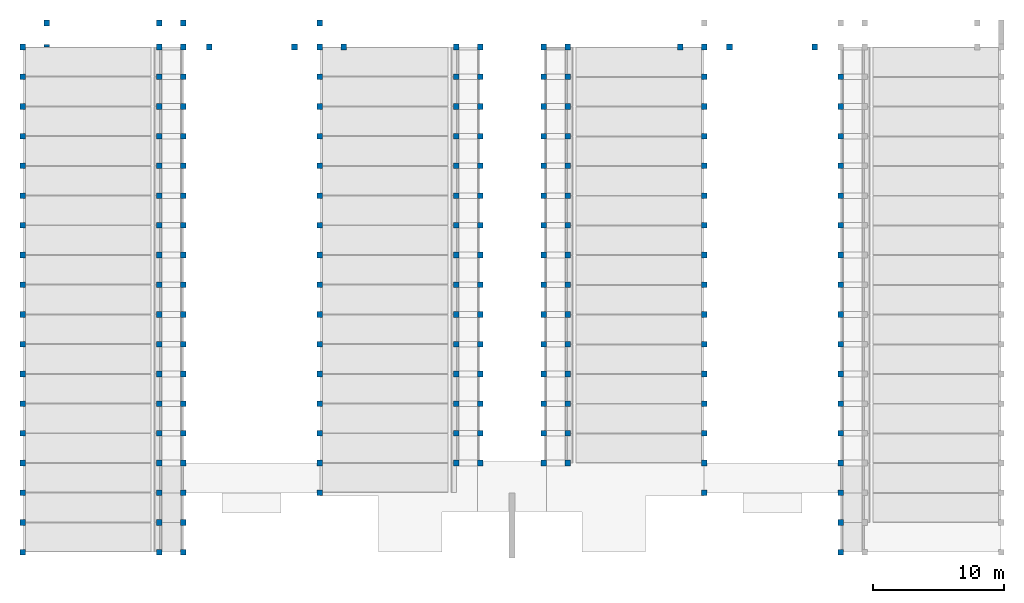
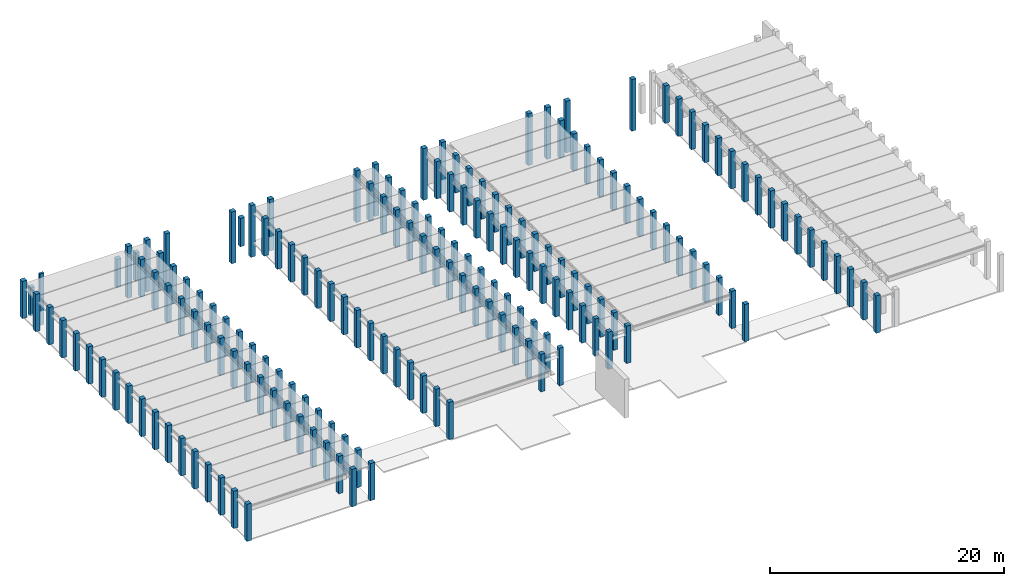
# One storey, part 1 of 21: 174 columns.
"""IFC2X3 building model written with IfcOpenShell, lengths in millimetres."""

import ifcopenshell
import ifcopenshell.guid

model = None  # the IFC model being written
_history = None  # IfcOwnerHistory: only IFC2X3 demands one
_inside = {}  # id of a spatial element -> (the spatial element, [elements in it])
_under = {}  # id of a project, library or spatial element -> (it, [spatial elements below it])
_declared = {}  # id of a project -> (the project, [libraries it declares])
_typed = {}  # id of a type object -> (the type object, [elements of that type])
_made_of = {}  # id of a material, layer set ... -> (it, [elements and type objects made of it])


def new_model(schema):
    """Start an empty IFC model of exactly this schema.

    Asked for "IFC4X3", IfcOpenShell would pick the latest addendum, in which some entities
    have other attributes; the version numbers below select the first issue.
    IFC2X3 requires an IfcOwnerHistory on every rooted entity: one is made here for all.
    """
    global model, _history
    if schema == "IFC4X3":
        model = ifcopenshell.file(schema_version=(4, 3, 0, 0))
    else:
        model = ifcopenshell.file(schema=schema)
    _inside.clear()
    _under.clear()
    _declared.clear()
    _typed.clear()
    _made_of.clear()
    _history = None
    if model.schema == "IFC2X3":
        org = make("IfcOrganization", Name="unknown")
        user = make(
            "IfcPersonAndOrganization",
            ThePerson=make("IfcPerson", FamilyName="unknown"),
            TheOrganization=org,
        )
        app = make(
            "IfcApplication",
            ApplicationDeveloper=org,
            Version="unknown",
            ApplicationFullName="unknown",
            ApplicationIdentifier="unknown",
        )
        _history = make(
            "IfcOwnerHistory",
            OwningUser=user,
            OwningApplication=app,
            ChangeAction="ADDED",
            CreationDate=0,
        )
    return model


def make(cls, **values):
    """One entity of the class cls with the attributes given. An attribute that is None is left unset."""
    return model.create_entity(
        cls, **{name: value for name, value in values.items() if value is not None}
    )


def entity(cls, *values):
    """Any entity or typed value of the class cls, its attributes in the order of the schema. None: left unset."""
    e = model.create_entity(cls)
    for i, value in enumerate(values):
        if value is not None:
            e[i] = value
    return e


def rooted(cls, **values):
    """An entity with a GlobalId (a new one), such as an element, a storey or a relation."""
    return make(cls, GlobalId=ifcopenshell.guid.new(), OwnerHistory=_history, **values)


def si_unit(unit_type, name, prefix=None):
    """IfcSIUnit, for example si_unit("LENGTHUNIT", "METRE", prefix="MILLI")."""
    return make("IfcSIUnit", UnitType=unit_type, Prefix=prefix, Name=name)


def converted_unit(unit_type, name, factor, base, dimensions=None, offset=None):
    """IfcConversionBasedUnit, such as the inch: factor (a typed value) times the base unit."""
    return make(
        "IfcConversionBasedUnit"
        if offset is None
        else "IfcConversionBasedUnitWithOffset",
        ConversionOffset=offset,
        Dimensions=None
        if dimensions is None
        else entity("IfcDimensionalExponents", *dimensions),
        UnitType=unit_type,
        Name=name,
        ConversionFactor=make(
            "IfcMeasureWithUnit", ValueComponent=factor, UnitComponent=base
        ),
    )


def derived_unit(unit_type, elements):
    """IfcDerivedUnit: a product of units, each with its exponent."""
    return make(
        "IfcDerivedUnit",
        Elements=[
            make("IfcDerivedUnitElement", Unit=unit, Exponent=power)
            for unit, power in elements
        ],
        UnitType=unit_type,
    )


def assignment(units):
    """IfcUnitAssignment: the units of a project."""
    return None if units is None else make("IfcUnitAssignment", Units=units)


def point(xyz):
    """IfcCartesianPoint."""
    return None if xyz is None else make("IfcCartesianPoint", Coordinates=xyz)


def direction(xyz):
    """IfcDirection."""
    return None if xyz is None else make("IfcDirection", DirectionRatios=xyz)


def frame(location, z_axis=None, x_axis=None):
    """IfcAxis2Placement3D, a coordinate frame: its origin and axes. An axis left out is left unset."""
    return make(
        "IfcAxis2Placement3D",
        Location=point(location),
        Axis=direction(z_axis),
        RefDirection=direction(x_axis),
    )


def frame_2d(location, x_axis=None):
    """IfcAxis2Placement2D, a coordinate frame in the plane: its origin and x axis."""
    return make(
        "IfcAxis2Placement2D", Location=point(location), RefDirection=direction(x_axis)
    )


def origin():
    """The frame at (0, 0, 0) with its axes left unset."""
    return frame((0.0, 0.0, 0.0))


def origin_2d_with_axis():
    """The frame at (0, 0) in the plane with the x axis (1, 0) written out."""
    return frame_2d((0.0, 0.0), x_axis=(1.0, 0.0))


def place(relative_to, where):
    """IfcLocalPlacement: puts the frame where relative to a parent placement (None: the world)."""
    return make(
        "IfcLocalPlacement", PlacementRelTo=relative_to, RelativePlacement=where
    )


def context(
    kind, dimensions, precision=None, world=None, true_north=None, identifier=None
):
    """IfcGeometricRepresentationContext, for example the 3D "Model" context."""
    return make(
        "IfcGeometricRepresentationContext",
        ContextIdentifier=identifier,
        ContextType=kind,
        CoordinateSpaceDimension=dimensions,
        Precision=precision,
        WorldCoordinateSystem=world,
        TrueNorth=true_north,
    )


def subcontext(parent, identifier, kind, view, scale=None):
    """IfcGeometricRepresentationSubContext, for example "Body" below "Model"."""
    return make(
        "IfcGeometricRepresentationSubContext",
        ContextIdentifier=identifier,
        ContextType=kind,
        ParentContext=parent,
        TargetScale=scale,
        TargetView=view,
    )


def project(units=None, contexts=None):
    """IfcProject with its units and contexts."""
    return rooted(
        "IfcProject",
        Name="project",
        RepresentationContexts=contexts,
        UnitsInContext=assignment(units),
    )


def spatial(cls, under=None, at=None, **own):
    """A site, building, storey or space (cls), placed at a placement, below another one or the project."""
    s = rooted(cls, ObjectPlacement=at, **own)
    if under is not None:
        _under.setdefault(under.id(), (under, []))[1].append(s)
    return s


def polyline(points):
    """IfcPolyline through the points."""
    return make("IfcPolyline", Points=[point(p) for p in points])


def profile(cls, at=None, kind="AREA", **sizes):
    """A parametric profile (cls). Its sizes go by their IFC names, for example OverallWidth=200.0."""
    return make(cls, ProfileType=kind, Position=at, **sizes)


def rectangle(**sizes):
    """IfcRectangleProfileDef."""
    return profile("IfcRectangleProfileDef", **sizes)


def outline(outer, holes=None, kind="AREA"):
    """IfcArbitraryClosedProfileDef: a profile drawn as a closed curve; with holes, ...WithVoids."""
    if holes is None:
        return make("IfcArbitraryClosedProfileDef", ProfileType=kind, OuterCurve=outer)
    return make(
        "IfcArbitraryProfileDefWithVoids",
        ProfileType=kind,
        OuterCurve=outer,
        InnerCurves=holes,
    )


def extrude(swept, where, along, depth):
    """IfcExtrudedAreaSolid: the profile swept, set in the frame where, extruded along a direction by depth."""
    return make(
        "IfcExtrudedAreaSolid",
        SweptArea=swept,
        Position=where,
        ExtrudedDirection=direction(along),
        Depth=depth,
    )


def shape(context_of_items, identifier, shape_type, items):
    """IfcShapeRepresentation: the items that make up one representation, for example the "Body"."""
    return make(
        "IfcShapeRepresentation",
        ContextOfItems=context_of_items,
        RepresentationIdentifier=identifier,
        RepresentationType=shape_type,
        Items=items,
    )


def source(mapping_origin, context_of_items, identifier, shape_type, items):
    """IfcRepresentationMap: a shape defined once, which mapped items show again and again."""
    return make(
        "IfcRepresentationMap",
        MappingOrigin=mapping_origin,
        MappedRepresentation=shape(context_of_items, identifier, shape_type, items),
    )


def transform(
    local_origin,
    x_axis=None,
    y_axis=None,
    z_axis=None,
    scale=None,
    scale2=None,
    scale3=None,
    uniform=True,
):
    """IfcCartesianTransformationOperator3D, or its non-uniform kind. x_axis, y_axis, z_axis: its Axis1, 2, 3."""
    if uniform:
        return make(
            "IfcCartesianTransformationOperator3D",
            Axis1=direction(x_axis),
            Axis2=direction(y_axis),
            LocalOrigin=point(local_origin),
            Scale=scale,
            Axis3=direction(z_axis),
        )
    return make(
        "IfcCartesianTransformationOperator3DnonUniform",
        Axis1=direction(x_axis),
        Axis2=direction(y_axis),
        LocalOrigin=point(local_origin),
        Scale=scale,
        Axis3=direction(z_axis),
        Scale2=scale2,
        Scale3=scale3,
    )


def mapped(mapping_source, mapping_target):
    """IfcMappedItem: shows the shape of a source again, moved by a transform."""
    return make(
        "IfcMappedItem", MappingSource=mapping_source, MappingTarget=mapping_target
    )


def material(Name=None, Category=None):
    """IfcMaterial."""
    return make("IfcMaterial", Name=Name, Category=Category)


def made_of(thing, what):
    """Note that an element or type object is made of a material, layer set ...; save() writes the relation."""
    if what is not None:
        _made_of.setdefault(what.id(), (what, []))[1].append(thing)
    return thing


def type_object(cls, material=None, **own):
    """A type object (cls), such as IfcWallType, which elements share."""
    return made_of(rooted(cls, **own), material)


def type_shapes(of_type, sources):
    """Give a type object the sources (RepresentationMaps) that its elements show as mapped items."""
    of_type.RepresentationMaps = sources


def element(
    cls,
    number,
    at=None,
    inside=None,
    cuts=None,
    type_object=None,
    material=None,
    context=None,
    identifier="Body",
    shape_type=None,
    held_by="IfcProductDefinitionShape",
    body=None,
    shapes=None,
    **own,
):
    """One element of the class cls, such as IfcWall. Its Tag is "e" and its number.

    at: its placement. inside: the storey or other place that contains it. cuts: it is an
    opening in that element (IfcRelVoidsElement). A single representation is given by context,
    identifier, shape_type and body (its items); several are given by shapes. held_by: the class
    of the entity that holds the representations. save() writes the other relations.
    """
    e = rooted(cls, Tag="e%d" % number, ObjectPlacement=at, **own)
    if body is not None:
        shapes = [shape(context, identifier, shape_type, body)]
    if shapes is not None:
        e.Representation = make(held_by, Representations=shapes)
    if inside is not None:
        _inside.setdefault(inside.id(), (inside, []))[1].append(e)
    if cuts is not None:
        rooted(
            "IfcRelVoidsElement", RelatingBuildingElement=cuts, RelatedOpeningElement=e
        )
    if type_object is not None:
        _typed.setdefault(type_object.id(), (type_object, []))[1].append(e)
    return made_of(e, material)


def aggregate(whole, parts):
    """IfcRelAggregates: a whole, such as a stair, and the parts it consists of."""
    return rooted("IfcRelAggregates", RelatingObject=whole, RelatedObjects=parts)


def save(model, path):
    """Write the relations noted so far, then the file.

    IfcRelAggregates (storeys below a building ...), IfcRelContainedInSpatialStructure (elements
    in a storey), IfcRelDefinesByType, IfcRelAssociatesMaterial and IfcRelDeclares: one each for
    every whole, place, type object, material and project.
    """
    for whole, parts in _under.values():
        aggregate(whole, parts)
    for where, things in _inside.values():
        rooted(
            "IfcRelContainedInSpatialStructure",
            RelatedElements=things,
            RelatingStructure=where,
        )
    for kind, things in _typed.values():
        rooted("IfcRelDefinesByType", RelatedObjects=things, RelatingType=kind)
    for what, things in _made_of.values():
        rooted("IfcRelAssociatesMaterial", RelatedObjects=things, RelatingMaterial=what)
    for by, libraries in _declared.values():
        rooted("IfcRelDeclares", RelatingContext=by, RelatedDefinitions=libraries)
    model.write(path)


model = new_model("IFC2X3")

# Units and contexts
model_context = context("Model", 3, precision=0.01, world=origin(), true_north=direction((6.12303176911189e-17, 1.0)))
body_context = subcontext(model_context, "Body", "Model", "MODEL_VIEW")
ifc_project = project(units=[si_unit("LENGTHUNIT", "METRE", prefix="MILLI"), si_unit("AREAUNIT", "SQUARE_METRE"), si_unit("VOLUMEUNIT", "CUBIC_METRE"), converted_unit("PLANEANGLEUNIT", "DEGREE", entity("IfcRatioMeasure", 0.0174532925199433), si_unit("PLANEANGLEUNIT", "RADIAN"), dimensions=[0, 0, 0, 0, 0, 0, 0]), si_unit("MASSUNIT", "GRAM", prefix="KILO"), derived_unit("MASSDENSITYUNIT", [(si_unit("MASSUNIT", "GRAM", prefix="KILO"), 1), (si_unit("LENGTHUNIT", "METRE"), -3)]), derived_unit("MOMENTOFINERTIAUNIT", [(si_unit("LENGTHUNIT", "METRE"), 4)]), si_unit("TIMEUNIT", "SECOND"), si_unit("FREQUENCYUNIT", "HERTZ"), si_unit("THERMODYNAMICTEMPERATUREUNIT", "DEGREE_CELSIUS"), derived_unit("THERMALTRANSMITTANCEUNIT", [(si_unit("MASSUNIT", "GRAM", prefix="KILO"), 1), (si_unit("THERMODYNAMICTEMPERATUREUNIT", "KELVIN"), -1), (si_unit("TIMEUNIT", "SECOND"), -3)]), derived_unit("VOLUMETRICFLOWRATEUNIT", [(si_unit("LENGTHUNIT", "METRE"), 3), (si_unit("TIMEUNIT", "SECOND"), -1)]), si_unit("ELECTRICCURRENTUNIT", "AMPERE"), si_unit("ELECTRICVOLTAGEUNIT", "VOLT"), si_unit("POWERUNIT", "WATT"), si_unit("FORCEUNIT", "NEWTON", prefix="KILO"), si_unit("ILLUMINANCEUNIT", "LUX"), si_unit("LUMINOUSFLUXUNIT", "LUMEN"), si_unit("LUMINOUSINTENSITYUNIT", "CANDELA"), derived_unit("USERDEFINED", [(si_unit("MASSUNIT", "GRAM", prefix="KILO"), -1), (si_unit("LENGTHUNIT", "METRE"), -2), (si_unit("TIMEUNIT", "SECOND"), 3), (si_unit("LUMINOUSFLUXUNIT", "LUMEN"), 1)]), derived_unit("LINEARVELOCITYUNIT", [(si_unit("LENGTHUNIT", "METRE"), 1), (si_unit("TIMEUNIT", "SECOND"), -1)]), si_unit("PRESSUREUNIT", "PASCAL"), derived_unit("USERDEFINED", [(si_unit("LENGTHUNIT", "METRE"), -2), (si_unit("MASSUNIT", "GRAM", prefix="KILO"), 1), (si_unit("TIMEUNIT", "SECOND"), -2)]), derived_unit("LINEARFORCEUNIT", [(si_unit("MASSUNIT", "GRAM", prefix="KILO"), 1), (si_unit("LENGTHUNIT", "METRE"), 1), (si_unit("TIMEUNIT", "SECOND"), -2), (si_unit("LENGTHUNIT", "METRE"), -1)]), derived_unit("PLANARFORCEUNIT", [(si_unit("MASSUNIT", "GRAM", prefix="KILO"), 1), (si_unit("LENGTHUNIT", "METRE"), 1), (si_unit("TIMEUNIT", "SECOND"), -2), (si_unit("LENGTHUNIT", "METRE"), -2)])], contexts=[model_context])

# Site, building, storey
site_placement = place(None, frame((10627.5135316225, 21939.0796949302, 0.0)))
site = spatial("IfcSite", under=ifc_project, at=site_placement, Name="Default", CompositionType="ELEMENT")
building_placement = place(site_placement, origin())
building = spatial("IfcBuilding", under=site, at=building_placement, CompositionType="ELEMENT")
storey_placement = place(building_placement, frame((0.0, 0.0, 7320.0)))
storey = spatial("IfcBuildingStorey", under=building, at=storey_placement, Name="R+2", CompositionType="ELEMENT", Elevation=7320.0)

# Columns
ifc_material = material(Name="Concrete, Precast Smooth, Light Grey")
column_type_1 = type_object("IfcColumnType", Name="M_Precast-Square Column:430x430", PredefinedType="COLUMN", material=ifc_material)
shared_shape_1 = source(origin(), body_context, "Body", "SweptSolid", [
    extrude(rectangle(XDim=430.0, YDim=430.0, at=origin_2d_with_axis()), frame((0.0, 0.0, 5820.0), z_axis=(0.0, 0.0, 1.0), x_axis=(0.0, -1.0, 0.0)), (0.0, 0.0, 1.0), 5410.0),
])
type_shapes(column_type_1, [shared_shape_1])
column_1_placement = place(storey_placement, frame((-247.513531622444, 16480.9203050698, -7320.0)))
element("IfcColumn", 1, at=column_1_placement, inside=storey, type_object=column_type_1, material=ifc_material, Name="M_Precast-Square Column:430x430", ObjectType="M_Precast-Square Column:430x430", context=body_context, shape_type="MappedRepresentation", body=[
    mapped(shared_shape_1, transform((0.0, 0.0, 0.0), scale=1.0)),
])
for number, where, z_axis, x_axis, name in (
    (2, (1582.48646837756, 16480.9203050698, -7320.0), (0.0, 0.0, 1.0), (-1.0, 0.0, 0.0), "M_Precast-Square Column:430x430"),
    (3, (3545.48646837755, 16480.9203050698, -7320.0), (0.0, 0.0, 1.0), (-1.0, 0.0, 0.0), "M_Precast-Square Column:430x430"),
    (4, (11962.4864683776, 16480.9203050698, -7320.0), (0.0, 0.0, 1.0), (-1.0, 0.0, 0.0), "M_Precast-Square Column:430x430"),
    (5, (22342.4864683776, 16480.9203050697, -7320.0), (0.0, 0.0, 1.0), (-1.0, 0.0, 0.0), "M_Precast-Square Column:430x430"),
    (6, (24172.4864683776, 16480.9203050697, -7320.0), (0.0, 0.0, 1.0), (-1.0, 0.0, 0.0), "M_Precast-Square Column:430x430"),
    (7, (43117.3311933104, 16480.9203050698, -7320.0), (0.0, 0.0, 1.0), (-1.0, 0.0, 0.0), "M_Precast-Square Column:430x430"),
    (8, (39362.4864683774, 16480.9203050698, -7320.0), (0.0, 0.0, 1.0), (-1.0, 0.0, 0.0), "M_Precast-Square Column:430x430"),
):
    element("IfcColumn", number, at=place(storey_placement, frame(where, z_axis=z_axis, x_axis=x_axis)), inside=storey, type_object=column_type_1, material=ifc_material, Name=name, ObjectType="M_Precast-Square Column:430x430", context=body_context, shape_type="MappedRepresentation", body=[
        mapped(shared_shape_1, transform((0.0, 0.0, 0.0), scale=1.0)),
    ])
column_type_2 = type_object("IfcColumnType", Name="M_Precast-Square Column:430x430", PredefinedType="COLUMN", material=ifc_material)
shared_shape_2 = source(origin(), body_context, "Body", "SweptSolid", [
    extrude(rectangle(XDim=430.0, YDim=430.0, at=origin_2d_with_axis()), frame((0.0, 0.0, 5820.0), z_axis=(0.0, 0.0, 1.0), x_axis=(0.0, -1.0, 0.0)), (0.0, 0.0, 1.0), 2970.0),
])
type_shapes(column_type_2, [shared_shape_2])
for number, where, z_axis, x_axis, name in (
    (9, (-247.513531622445, 18310.9203050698, -7320.0), (0.0, 0.0, 1.0), (-1.0, 0.0, 0.0), "M_Precast-Square Column:430x430"),
    (10, (1582.48646837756, 18310.9203050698, -7320.0), (0.0, 0.0, 1.0), (-1.0, 0.0, 0.0), "M_Precast-Square Column:430x430"),
    (11, (11962.4864683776, 18310.9203050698, -7320.0), (0.0, 0.0, 1.0), (-1.0, 0.0, 0.0), "M_Precast-Square Column:430x430"),
    (12, (-8797.51353162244, 18310.9203050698, -7320.0), (0.0, 0.0, 1.0), (-1.0, 0.0, 0.0), "M_Precast-Square Column:430x430"),
):
    element("IfcColumn", number, at=place(storey_placement, frame(where, z_axis=z_axis, x_axis=x_axis)), inside=storey, type_object=column_type_2, material=ifc_material, Name=name, ObjectType="M_Precast-Square Column:430x430", context=body_context, shape_type="MappedRepresentation", body=[
        mapped(shared_shape_2, transform((0.0, 0.0, 0.0), scale=1.0)),
    ])
column_type_3 = type_object("IfcColumnType", Name="M_Precast-Rectangular Column:430X200", PredefinedType="COLUMN", material=ifc_material)
shared_shape_3 = source(origin(), body_context, "Body", "SweptSolid", [
    extrude(outline(polyline([(-75.0, -215.0), (75.0, -215.0), (100.0, -190.0), (100.0, 190.0), (75.0, 215.0), (-75.0, 215.0), (-100.0, 190.0), (-100.0, -190.0), (-75.0, -215.0)])), frame((0.0, 0.0, 5820.0), z_axis=(0.0, 0.0, 1.0), x_axis=(0.0, -1.0, 0.0)), (0.0, 0.0, 1.0), 5410.0),
])
type_shapes(column_type_3, [shared_shape_3])
column_2_placement = place(storey_placement, frame((-8797.51353162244, 16585.9203050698, -7320.0), z_axis=(0.0, 0.0, 1.0), x_axis=(-1.0, 0.0, 0.0)))
element("IfcColumn", 13, at=column_2_placement, inside=storey, type_object=column_type_3, material=ifc_material, Name="M_Precast-Rectangular Column:430X200", ObjectType="M_Precast-Rectangular Column:430X200", context=body_context, shape_type="MappedRepresentation", body=[
    mapped(shared_shape_3, transform((0.0, 0.0, 0.0), scale=1.0)),
])
column_type_4 = type_object("IfcColumnType", Name="M_Precast-Square Column:430x430", PredefinedType="COLUMN", material=ifc_material)
shared_shape_4 = source(origin(), body_context, "Body", "SweptSolid", [
    extrude(rectangle(XDim=430.0, YDim=430.0, at=origin_2d_with_axis()), frame((0.0, 0.0, 5820.0), z_axis=(0.0, 0.0, 1.0), x_axis=(0.0, -1.0, 0.0)), (0.0, 0.0, 1.0), 5410.0),
])
type_shapes(column_type_4, [shared_shape_4])
for number, where, name in (
    (14, (10037.6417434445, 16480.9203050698, -7320.0), "M_Precast-Square Column:430x430"),
    (15, (13792.4864683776, 16480.9203050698, -7320.0), "M_Precast-Square Column:430x430"),
    (16, (49609.4864683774, 16480.9203050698, -7320.0), "M_Precast-Square Column:430x430"),
    (17, (41192.4864683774, 16480.9203050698, -7320.0), "M_Precast-Square Column:430x430"),
    (18, (30812.4864683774, 16480.9203050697, -7320.0), "M_Precast-Square Column:430x430"),
    (19, (28982.4864683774, 16480.9203050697, -7320.0), "M_Precast-Square Column:430x430"),
):
    element("IfcColumn", number, at=place(storey_placement, frame(where)), inside=storey, type_object=column_type_4, material=ifc_material, Name=name, ObjectType="M_Precast-Square Column:430x430", context=body_context, shape_type="MappedRepresentation", body=[
        mapped(shared_shape_4, transform((0.0, 0.0, 0.0), scale=1.0)),
    ])
column_type_5 = type_object("IfcColumnType", Name="M_Precast-Square Column:430x430 Main floor", PredefinedType="COLUMN", material=ifc_material)
shared_shape_5 = source(origin(), body_context, "Body", "SweptSolid", [
    extrude(rectangle(XDim=430.0, YDim=430.0, at=origin_2d_with_axis()), frame((0.0, 0.0, 7320.0), z_axis=(0.0, 0.0, 1.0), x_axis=(0.0, -1.0, 0.0)), (0.0, 0.0, 1.0), 3910.0),
])
type_shapes(column_type_5, [shared_shape_5])
for number, where, z_axis, x_axis, name in (
    (20, (-10627.5135316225, 14220.9203050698, -7320.0), (0.0, 0.0, 1.0), (-1.0, 0.0, 0.0), "M_Precast-Square Column:430x430 Main floor"),
    (21, (-10627.5135316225, 11960.9203050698, -7320.0), (0.0, 0.0, 1.0), (-1.0, 0.0, 0.0), "M_Precast-Square Column:430x430 Main floor"),
    (22, (-247.51353162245, 14220.9203050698, -7320.0), (0.0, 0.0, 1.0), (-1.0, 0.0, 0.0), "M_Precast-Square Column:430x430 Main floor"),
    (23, (-247.513531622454, 11960.9203050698, -7320.0), (0.0, 0.0, 1.0), (-1.0, 0.0, 0.0), "M_Precast-Square Column:430x430 Main floor"),
    (24, (1582.48646837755, 14220.9203050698, -7320.0), (0.0, 0.0, 1.0), (-1.0, 0.0, 0.0), "M_Precast-Square Column:430x430 Main floor"),
    (25, (1582.48646837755, 11960.9203050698, -7320.0), (0.0, 0.0, 1.0), (-1.0, 0.0, 0.0), "M_Precast-Square Column:430x430 Main floor"),
    (26, (11962.4864683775, 14220.9203050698, -7320.0), (0.0, 0.0, 1.0), (-1.0, 0.0, 0.0), "M_Precast-Square Column:430x430 Main floor"),
    (27, (11962.4864683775, 11960.9203050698, -7320.0), (0.0, 0.0, 1.0), (-1.0, 0.0, 0.0), "M_Precast-Square Column:430x430 Main floor"),
    (28, (22342.4864683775, 14220.9203050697, -7320.0), (0.0, 0.0, 1.0), (-1.0, 0.0, 0.0), "M_Precast-Square Column:430x430 Main floor"),
    (29, (22342.4864683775, 11960.9203050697, -7320.0), (0.0, 0.0, 1.0), (-1.0, 0.0, 0.0), "M_Precast-Square Column:430x430 Main floor"),
    (30, (24172.4864683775, 14220.9203050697, -7320.0), (0.0, 0.0, 1.0), (-1.0, 0.0, 0.0), "M_Precast-Square Column:430x430 Main floor"),
    (31, (24172.4864683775, 11960.9203050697, -7320.0), (0.0, 0.0, 1.0), (-1.0, 0.0, 0.0), "M_Precast-Square Column:430x430 Main floor"),
    (32, (-247.513531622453, 9700.92030506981, -7320.0), (0.0, 0.0, 1.0), (-1.0, 0.0, 0.0), "M_Precast-Square Column:430x430 Main floor"),
    (33, (1582.48646837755, 9700.9203050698, -7320.0), (0.0, 0.0, 1.0), (-1.0, 0.0, 0.0), "M_Precast-Square Column:430x430 Main floor"),
    (34, (-10627.5135316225, 9700.92030506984, -7320.0), (0.0, 0.0, 1.0), (-1.0, 0.0, 0.0), "M_Precast-Square Column:430x430 Main floor"),
    (35, (11962.4864683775, 9700.92030506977, -7320.0), (0.0, 0.0, 1.0), (-1.0, 0.0, 0.0), "M_Precast-Square Column:430x430 Main floor"),
    (36, (22342.4864683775, 9700.92030506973, -7320.0), (0.0, 0.0, 1.0), (-1.0, 0.0, 0.0), "M_Precast-Square Column:430x430 Main floor"),
    (37, (24172.4864683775, 9700.92030506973, -7320.0), (0.0, 0.0, 1.0), (-1.0, 0.0, 0.0), "M_Precast-Square Column:430x430 Main floor"),
    (38, (-247.513531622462, 7440.92030506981, -7320.0), (0.0, 0.0, 1.0), (-1.0, 0.0, 0.0), "M_Precast-Square Column:430x430 Main floor"),
    (39, (1582.48646837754, 7440.9203050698, -7320.0), (0.0, 0.0, 1.0), (-1.0, 0.0, 0.0), "M_Precast-Square Column:430x430 Main floor"),
    (40, (-10627.5135316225, 7440.92030506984, -7320.0), (0.0, 0.0, 1.0), (-1.0, 0.0, 0.0), "M_Precast-Square Column:430x430 Main floor"),
    (41, (11962.4864683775, 7440.92030506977, -7320.0), (0.0, 0.0, 1.0), (-1.0, 0.0, 0.0), "M_Precast-Square Column:430x430 Main floor"),
    (42, (22342.4864683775, 7440.92030506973, -7320.0), (0.0, 0.0, 1.0), (-1.0, 0.0, 0.0), "M_Precast-Square Column:430x430 Main floor"),
    (43, (24172.4864683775, 7440.92030506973, -7320.0), (0.0, 0.0, 1.0), (-1.0, 0.0, 0.0), "M_Precast-Square Column:430x430 Main floor"),
    (44, (-247.513531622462, 5180.92030506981, -7320.0), (0.0, 0.0, 1.0), (-1.0, 0.0, 0.0), "M_Precast-Square Column:430x430 Main floor"),
    (45, (1582.48646837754, 5180.9203050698, -7320.0), (0.0, 0.0, 1.0), (-1.0, 0.0, 0.0), "M_Precast-Square Column:430x430 Main floor"),
    (46, (-10627.5135316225, 5180.92030506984, -7320.0), (0.0, 0.0, 1.0), (-1.0, 0.0, 0.0), "M_Precast-Square Column:430x430 Main floor"),
    (47, (11962.4864683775, 5180.92030506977, -7320.0), (0.0, 0.0, 1.0), (-1.0, 0.0, 0.0), "M_Precast-Square Column:430x430 Main floor"),
    (48, (22342.4864683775, 5180.92030506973, -7320.0), (0.0, 0.0, 1.0), (-1.0, 0.0, 0.0), "M_Precast-Square Column:430x430 Main floor"),
    (49, (24172.4864683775, 5180.92030506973, -7320.0), (0.0, 0.0, 1.0), (-1.0, 0.0, 0.0), "M_Precast-Square Column:430x430 Main floor"),
    (50, (-247.513531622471, 2920.92030506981, -7320.0), (0.0, 0.0, 1.0), (-1.0, 0.0, 0.0), "M_Precast-Square Column:430x430 Main floor"),
    (51, (1582.48646837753, 2920.9203050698, -7320.0), (0.0, 0.0, 1.0), (-1.0, 0.0, 0.0), "M_Precast-Square Column:430x430 Main floor"),
    (52, (-10627.5135316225, 2920.92030506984, -7320.0), (0.0, 0.0, 1.0), (-1.0, 0.0, 0.0), "M_Precast-Square Column:430x430 Main floor"),
    (53, (11962.4864683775, 2920.92030506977, -7320.0), (0.0, 0.0, 1.0), (-1.0, 0.0, 0.0), "M_Precast-Square Column:430x430 Main floor"),
    (54, (22342.4864683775, 2920.92030506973, -7320.0), (0.0, 0.0, 1.0), (-1.0, 0.0, 0.0), "M_Precast-Square Column:430x430 Main floor"),
    (55, (24172.4864683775, 2920.92030506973, -7320.0), (0.0, 0.0, 1.0), (-1.0, 0.0, 0.0), "M_Precast-Square Column:430x430 Main floor"),
    (56, (-247.513531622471, 660.920305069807, -7320.0), (0.0, 0.0, 1.0), (-1.0, 0.0, 0.0), "M_Precast-Square Column:430x430 Main floor"),
    (57, (1582.48646837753, 660.920305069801, -7320.0), (0.0, 0.0, 1.0), (-1.0, 0.0, 0.0), "M_Precast-Square Column:430x430 Main floor"),
    (58, (-10627.5135316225, 660.92030506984, -7320.0), (0.0, 0.0, 1.0), (-1.0, 0.0, 0.0), "M_Precast-Square Column:430x430 Main floor"),
    (59, (11962.4864683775, 660.920305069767, -7320.0), (0.0, 0.0, 1.0), (-1.0, 0.0, 0.0), "M_Precast-Square Column:430x430 Main floor"),
    (60, (22342.4864683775, 660.920305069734, -7320.0), (0.0, 0.0, 1.0), (-1.0, 0.0, 0.0), "M_Precast-Square Column:430x430 Main floor"),
    (61, (24172.4864683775, 660.920305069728, -7320.0), (0.0, 0.0, 1.0), (-1.0, 0.0, 0.0), "M_Precast-Square Column:430x430 Main floor"),
    (62, (-247.513531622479, -1599.07969493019, -7320.0), (0.0, 0.0, 1.0), (-1.0, 0.0, 0.0), "M_Precast-Square Column:430x430 Main floor"),
    (63, (1582.48646837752, -1599.0796949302, -7320.0), (0.0, 0.0, 1.0), (-1.0, 0.0, 0.0), "M_Precast-Square Column:430x430 Main floor"),
    (64, (-10627.5135316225, -1599.07969493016, -7320.0), (0.0, 0.0, 1.0), (-1.0, 0.0, 0.0), "M_Precast-Square Column:430x430 Main floor"),
    (65, (11962.4864683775, -1599.07969493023, -7320.0), (0.0, 0.0, 1.0), (-1.0, 0.0, 0.0), "M_Precast-Square Column:430x430 Main floor"),
    (66, (22342.4864683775, -1599.07969493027, -7320.0), (0.0, 0.0, 1.0), (-1.0, 0.0, 0.0), "M_Precast-Square Column:430x430 Main floor"),
    (67, (24172.4864683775, -1599.07969493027, -7320.0), (0.0, 0.0, 1.0), (-1.0, 0.0, 0.0), "M_Precast-Square Column:430x430 Main floor"),
    (68, (-247.513531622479, -3859.07969493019, -7320.0), (0.0, 0.0, 1.0), (-1.0, 0.0, 0.0), "M_Precast-Square Column:430x430 Main floor"),
    (69, (1582.48646837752, -3859.0796949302, -7320.0), (0.0, 0.0, 1.0), (-1.0, 0.0, 0.0), "M_Precast-Square Column:430x430 Main floor"),
    (70, (-10627.5135316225, -3859.07969493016, -7320.0), (0.0, 0.0, 1.0), (-1.0, 0.0, 0.0), "M_Precast-Square Column:430x430 Main floor"),
    (71, (11962.4864683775, -3859.07969493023, -7320.0), (0.0, 0.0, 1.0), (-1.0, 0.0, 0.0), "M_Precast-Square Column:430x430 Main floor"),
    (72, (22342.4864683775, -3859.07969493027, -7320.0), (0.0, 0.0, 1.0), (-1.0, 0.0, 0.0), "M_Precast-Square Column:430x430 Main floor"),
    (73, (24172.4864683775, -3859.07969493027, -7320.0), (0.0, 0.0, 1.0), (-1.0, 0.0, 0.0), "M_Precast-Square Column:430x430 Main floor"),
    (74, (-247.513531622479, -6119.07969493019, -7320.0), (0.0, 0.0, 1.0), (-1.0, 0.0, 0.0), "M_Precast-Square Column:430x430 Main floor"),
    (75, (1582.48646837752, -6119.0796949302, -7320.0), (0.0, 0.0, 1.0), (-1.0, 0.0, 0.0), "M_Precast-Square Column:430x430 Main floor"),
    (76, (-10627.5135316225, -6119.07969493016, -7320.0), (0.0, 0.0, 1.0), (-1.0, 0.0, 0.0), "M_Precast-Square Column:430x430 Main floor"),
    (77, (11962.4864683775, -6119.07969493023, -7320.0), (0.0, 0.0, 1.0), (-1.0, 0.0, 0.0), "M_Precast-Square Column:430x430 Main floor"),
    (78, (22342.4864683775, -6119.07969493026, -7320.0), (0.0, 0.0, 1.0), (-1.0, 0.0, 0.0), "M_Precast-Square Column:430x430 Main floor"),
    (79, (24172.4864683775, -6119.07969493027, -7320.0), (0.0, 0.0, 1.0), (-1.0, 0.0, 0.0), "M_Precast-Square Column:430x430 Main floor"),
    (80, (-247.513531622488, -8379.07969493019, -7320.0), (0.0, 0.0, 1.0), (-1.0, 0.0, 0.0), "M_Precast-Square Column:430x430 Main floor"),
    (81, (1582.48646837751, -8379.0796949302, -7320.0), (0.0, 0.0, 1.0), (-1.0, 0.0, 0.0), "M_Precast-Square Column:430x430 Main floor"),
    (82, (-10627.5135316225, -8379.07969493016, -7320.0), (0.0, 0.0, 1.0), (-1.0, 0.0, 0.0), "M_Precast-Square Column:430x430 Main floor"),
    (83, (11962.4864683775, -8379.07969493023, -7320.0), (0.0, 0.0, 1.0), (-1.0, 0.0, 0.0), "M_Precast-Square Column:430x430 Main floor"),
    (84, (22342.4864683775, -8379.07969493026, -7320.0), (0.0, 0.0, 1.0), (-1.0, 0.0, 0.0), "M_Precast-Square Column:430x430 Main floor"),
    (85, (24172.4864683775, -8379.07969493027, -7320.0), (0.0, 0.0, 1.0), (-1.0, 0.0, 0.0), "M_Precast-Square Column:430x430 Main floor"),
    (86, (-247.513531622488, -10639.0796949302, -7320.0), (0.0, 0.0, 1.0), (-1.0, 0.0, 0.0), "M_Precast-Square Column:430x430 Main floor"),
    (87, (1582.48646837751, -10639.0796949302, -7320.0), (0.0, 0.0, 1.0), (-1.0, 0.0, 0.0), "M_Precast-Square Column:430x430 Main floor"),
    (88, (-10627.5135316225, -10639.0796949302, -7320.0), (0.0, 0.0, 1.0), (-1.0, 0.0, 0.0), "M_Precast-Square Column:430x430 Main floor"),
    (89, (11962.4864683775, -10639.0796949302, -7320.0), (0.0, 0.0, 1.0), (-1.0, 0.0, 0.0), "M_Precast-Square Column:430x430 Main floor"),
    (90, (22342.4864683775, -10639.0796949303, -7320.0), (0.0, 0.0, 1.0), (-1.0, 0.0, 0.0), "M_Precast-Square Column:430x430 Main floor"),
    (91, (24172.4864683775, -10639.0796949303, -7320.0), (0.0, 0.0, 1.0), (-1.0, 0.0, 0.0), "M_Precast-Square Column:430x430 Main floor"),
    (92, (-247.513531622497, -12899.0796949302, -7320.0), (0.0, 0.0, 1.0), (-1.0, 0.0, 0.0), "M_Precast-Square Column:430x430 Main floor"),
    (93, (1582.4864683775, -12899.0796949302, -7320.0), (0.0, 0.0, 1.0), (-1.0, 0.0, 0.0), "M_Precast-Square Column:430x430 Main floor"),
    (94, (-10627.5135316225, -12899.0796949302, -7320.0), (0.0, 0.0, 1.0), (-1.0, 0.0, 0.0), "M_Precast-Square Column:430x430 Main floor"),
    (95, (11962.4864683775, -12899.0796949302, -7320.0), (0.0, 0.0, 1.0), (-1.0, 0.0, 0.0), "M_Precast-Square Column:430x430 Main floor"),
    (96, (22342.4864683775, -12899.0796949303, -7320.0), (0.0, 0.0, 1.0), (-1.0, 0.0, 0.0), "M_Precast-Square Column:430x430 Main floor"),
    (97, (24172.4864683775, -12899.0796949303, -7320.0), (0.0, 0.0, 1.0), (-1.0, 0.0, 0.0), "M_Precast-Square Column:430x430 Main floor"),
    (98, (-247.513531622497, -15159.0796949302, -7320.0), (0.0, 0.0, 1.0), (-1.0, 0.0, 0.0), "M_Precast-Square Column:430x430 Main floor"),
    (99, (1582.4864683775, -15159.0796949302, -7320.0), (0.0, 0.0, 1.0), (-1.0, 0.0, 0.0), "M_Precast-Square Column:430x430 Main floor"),
    (100, (-10627.5135316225, -15159.0796949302, -7320.0), (0.0, 0.0, 1.0), (-1.0, 0.0, 0.0), "M_Precast-Square Column:430x430 Main floor"),
    (101, (11962.4864683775, -15159.0796949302, -7320.0), (0.0, 0.0, 1.0), (-1.0, 0.0, 0.0), "M_Precast-Square Column:430x430 Main floor"),
    (102, (22342.4864683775, -15159.0796949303, -7320.0), (0.0, 0.0, 1.0), (-1.0, 0.0, 0.0), "M_Precast-Square Column:430x430 Main floor"),
    (103, (24172.4864683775, -15159.0796949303, -7320.0), (0.0, 0.0, 1.0), (-1.0, 0.0, 0.0), "M_Precast-Square Column:430x430 Main floor"),
    (104, (-247.513531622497, -17419.0796949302, -7320.0), (0.0, 0.0, 1.0), (-1.0, 0.0, 0.0), "M_Precast-Square Column:430x430 Main floor"),
    (105, (1582.4864683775, -17419.0796949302, -7320.0), (0.0, 0.0, 1.0), (-1.0, 0.0, 0.0), "M_Precast-Square Column:430x430 Main floor"),
    (106, (-10627.5135316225, -17419.0796949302, -7320.0), (0.0, 0.0, 1.0), (-1.0, 0.0, 0.0), "M_Precast-Square Column:430x430 Main floor"),
    (107, (11962.4864683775, -17419.0796949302, -7320.0), (0.0, 0.0, 1.0), (-1.0, 0.0, 0.0), "M_Precast-Square Column:430x430 Main floor"),
    (108, (-247.513531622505, -19679.0796949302, -7320.0), (0.0, 0.0, 1.0), (-1.0, 0.0, 0.0), "M_Precast-Square Column:430x430 Main floor"),
    (109, (1582.48646837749, -19679.0796949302, -7320.0), (0.0, 0.0, 1.0), (-1.0, 0.0, 0.0), "M_Precast-Square Column:430x430 Main floor"),
    (110, (-10627.5135316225, -19679.0796949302, -7320.0), (0.0, 0.0, 1.0), (-1.0, 0.0, 0.0), "M_Precast-Square Column:430x430 Main floor"),
    (111, (-247.513531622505, -21939.0796949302, -7320.0), (0.0, 0.0, 1.0), (-1.0, 0.0, 0.0), "M_Precast-Square Column:430x430 Main floor"),
    (112, (1582.48646837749, -21939.0796949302, -7320.0), (0.0, 0.0, 1.0), (-1.0, 0.0, 0.0), "M_Precast-Square Column:430x430 Main floor"),
    (113, (-10627.5135316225, -21939.0796949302, -7320.0), (0.0, 0.0, 1.0), (-1.0, 0.0, 0.0), "M_Precast-Square Column:430x430 Main floor"),
):
    element("IfcColumn", number, at=place(storey_placement, frame(where, z_axis=z_axis, x_axis=x_axis)), inside=storey, type_object=column_type_5, material=ifc_material, Name=name, ObjectType="M_Precast-Square Column:430x430 Main floor", context=body_context, shape_type="MappedRepresentation", body=[
        mapped(shared_shape_5, transform((0.0, 0.0, 0.0), scale=1.0)),
    ])
column_type_6 = type_object("IfcColumnType", Name="M_Precast-Square Column:430x430 Main floor", PredefinedType="COLUMN", material=ifc_material)
shared_shape_6 = source(origin(), body_context, "Body", "SweptSolid", [
    extrude(rectangle(XDim=430.0, YDim=430.0, at=origin_2d_with_axis()), frame((0.0, 0.0, 7320.0), z_axis=(0.0, 0.0, 1.0), x_axis=(0.0, -1.0, 0.0)), (0.0, 0.0, 1.0), 3910.0),
])
type_shapes(column_type_6, [shared_shape_6])
for number, where, name in (
    (114, (51572.4864683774, 14220.9203050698, -7320.0), "M_Precast-Square Column:430x430 Main floor"),
    (115, (51572.4864683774, 11960.9203050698, -7320.0), "M_Precast-Square Column:430x430 Main floor"),
    (116, (41192.4864683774, 14220.9203050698, -7320.0), "M_Precast-Square Column:430x430 Main floor"),
    (117, (41192.4864683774, 11960.9203050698, -7320.0), "M_Precast-Square Column:430x430 Main floor"),
    (118, (30812.4864683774, 14220.9203050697, -7320.0), "M_Precast-Square Column:430x430 Main floor"),
    (119, (30812.4864683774, 11960.9203050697, -7320.0), "M_Precast-Square Column:430x430 Main floor"),
    (120, (28982.4864683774, 14220.9203050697, -7320.0), "M_Precast-Square Column:430x430 Main floor"),
    (121, (28982.4864683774, 11960.9203050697, -7320.0), "M_Precast-Square Column:430x430 Main floor"),
    (122, (51572.4864683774, 9700.9203050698, -7320.0), "M_Precast-Square Column:430x430 Main floor"),
    (123, (41192.4864683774, 9700.92030506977, -7320.0), "M_Precast-Square Column:430x430 Main floor"),
    (124, (30812.4864683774, 9700.92030506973, -7320.0), "M_Precast-Square Column:430x430 Main floor"),
    (125, (28982.4864683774, 9700.92030506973, -7320.0), "M_Precast-Square Column:430x430 Main floor"),
    (126, (51572.4864683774, 7440.9203050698, -7320.0), "M_Precast-Square Column:430x430 Main floor"),
    (127, (41192.4864683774, 7440.92030506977, -7320.0), "M_Precast-Square Column:430x430 Main floor"),
    (128, (30812.4864683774, 7440.92030506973, -7320.0), "M_Precast-Square Column:430x430 Main floor"),
    (129, (28982.4864683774, 7440.92030506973, -7320.0), "M_Precast-Square Column:430x430 Main floor"),
    (130, (51572.4864683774, 5180.9203050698, -7320.0), "M_Precast-Square Column:430x430 Main floor"),
    (131, (41192.4864683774, 5180.92030506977, -7320.0), "M_Precast-Square Column:430x430 Main floor"),
    (132, (30812.4864683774, 5180.92030506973, -7320.0), "M_Precast-Square Column:430x430 Main floor"),
    (133, (28982.4864683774, 5180.92030506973, -7320.0), "M_Precast-Square Column:430x430 Main floor"),
    (134, (51572.4864683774, 2920.9203050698, -7320.0), "M_Precast-Square Column:430x430 Main floor"),
    (135, (41192.4864683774, 2920.92030506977, -7320.0), "M_Precast-Square Column:430x430 Main floor"),
    (136, (30812.4864683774, 2920.92030506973, -7320.0), "M_Precast-Square Column:430x430 Main floor"),
    (137, (28982.4864683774, 2920.92030506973, -7320.0), "M_Precast-Square Column:430x430 Main floor"),
    (138, (51572.4864683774, 660.920305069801, -7320.0), "M_Precast-Square Column:430x430 Main floor"),
    (139, (41192.4864683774, 660.920305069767, -7320.0), "M_Precast-Square Column:430x430 Main floor"),
    (140, (30812.4864683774, 660.920305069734, -7320.0), "M_Precast-Square Column:430x430 Main floor"),
    (141, (28982.4864683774, 660.920305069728, -7320.0), "M_Precast-Square Column:430x430 Main floor"),
    (142, (51572.4864683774, -1599.0796949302, -7320.0), "M_Precast-Square Column:430x430 Main floor"),
    (143, (41192.4864683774, -1599.07969493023, -7320.0), "M_Precast-Square Column:430x430 Main floor"),
    (144, (30812.4864683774, -1599.07969493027, -7320.0), "M_Precast-Square Column:430x430 Main floor"),
    (145, (28982.4864683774, -1599.07969493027, -7320.0), "M_Precast-Square Column:430x430 Main floor"),
    (146, (51572.4864683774, -3859.0796949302, -7320.0), "M_Precast-Square Column:430x430 Main floor"),
    (147, (41192.4864683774, -3859.07969493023, -7320.0), "M_Precast-Square Column:430x430 Main floor"),
    (148, (30812.4864683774, -3859.07969493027, -7320.0), "M_Precast-Square Column:430x430 Main floor"),
    (149, (28982.4864683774, -3859.07969493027, -7320.0), "M_Precast-Square Column:430x430 Main floor"),
    (150, (51572.4864683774, -6119.0796949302, -7320.0), "M_Precast-Square Column:430x430 Main floor"),
    (151, (41192.4864683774, -6119.07969493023, -7320.0), "M_Precast-Square Column:430x430 Main floor"),
    (152, (30812.4864683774, -6119.07969493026, -7320.0), "M_Precast-Square Column:430x430 Main floor"),
    (153, (28982.4864683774, -6119.07969493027, -7320.0), "M_Precast-Square Column:430x430 Main floor"),
    (154, (51572.4864683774, -8379.0796949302, -7320.0), "M_Precast-Square Column:430x430 Main floor"),
    (155, (41192.4864683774, -8379.07969493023, -7320.0), "M_Precast-Square Column:430x430 Main floor"),
    (156, (30812.4864683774, -8379.07969493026, -7320.0), "M_Precast-Square Column:430x430 Main floor"),
    (157, (28982.4864683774, -8379.07969493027, -7320.0), "M_Precast-Square Column:430x430 Main floor"),
    (158, (51572.4864683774, -10639.0796949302, -7320.0), "M_Precast-Square Column:430x430 Main floor"),
    (159, (41192.4864683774, -10639.0796949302, -7320.0), "M_Precast-Square Column:430x430 Main floor"),
    (160, (30812.4864683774, -10639.0796949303, -7320.0), "M_Precast-Square Column:430x430 Main floor"),
    (161, (28982.4864683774, -10639.0796949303, -7320.0), "M_Precast-Square Column:430x430 Main floor"),
    (162, (51572.4864683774, -12899.0796949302, -7320.0), "M_Precast-Square Column:430x430 Main floor"),
    (163, (41192.4864683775, -12899.0796949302, -7320.0), "M_Precast-Square Column:430x430 Main floor"),
    (164, (30812.4864683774, -12899.0796949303, -7320.0), "M_Precast-Square Column:430x430 Main floor"),
    (165, (28982.4864683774, -12899.0796949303, -7320.0), "M_Precast-Square Column:430x430 Main floor"),
    (166, (51572.4864683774, -15159.0796949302, -7320.0), "M_Precast-Square Column:430x430 Main floor"),
    (167, (41192.4864683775, -15159.0796949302, -7320.0), "M_Precast-Square Column:430x430 Main floor"),
    (168, (30812.4864683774, -15159.0796949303, -7320.0), "M_Precast-Square Column:430x430 Main floor"),
    (169, (28982.4864683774, -15159.0796949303, -7320.0), "M_Precast-Square Column:430x430 Main floor"),
    (170, (51572.4864683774, -17419.0796949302, -7320.0), "M_Precast-Square Column:430x430 Main floor"),
    (171, (41192.4864683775, -17419.0796949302, -7320.0), "M_Precast-Square Column:430x430 Main floor"),
    (172, (51572.4864683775, -19679.0796949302, -7320.0), "M_Precast-Square Column:430x430 Main floor"),
    (173, (51572.4864683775, -21939.0796949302, -7320.0), "M_Precast-Square Column:430x430 Main floor"),
):
    element("IfcColumn", number, at=place(storey_placement, frame(where)), inside=storey, type_object=column_type_6, material=ifc_material, Name=name, ObjectType="M_Precast-Square Column:430x430 Main floor", context=body_context, shape_type="MappedRepresentation", body=[
        mapped(shared_shape_6, transform((0.0, 0.0, 0.0), scale=1.0)),
    ])
column_type_7 = type_object("IfcColumnType", Name="M_Precast-Square Column:430x430", PredefinedType="COLUMN", material=ifc_material)
shared_shape_7 = source(origin(), body_context, "Body", "SweptSolid", [
    extrude(rectangle(XDim=430.0, YDim=430.0, at=origin_2d_with_axis()), frame((0.0, 0.0, 7320.0), z_axis=(0.0, 0.0, 1.0), x_axis=(0.0, -1.0, 0.0)), (0.0, 0.0, 1.0), 3910.0),
])
type_shapes(column_type_7, [shared_shape_7])
column_3_placement = place(storey_placement, frame((-10627.5135316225, 16480.9203050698, -7320.0)))
element("IfcColumn", 174, at=column_3_placement, inside=storey, type_object=column_type_7, material=ifc_material, Name="M_Precast-Square Column:430x430", ObjectType="M_Precast-Square Column:430x430", context=body_context, shape_type="MappedRepresentation", body=[
    mapped(shared_shape_7, transform((0.0, 0.0, 0.0), scale=1.0)),
])

save(model, "model.ifc")
